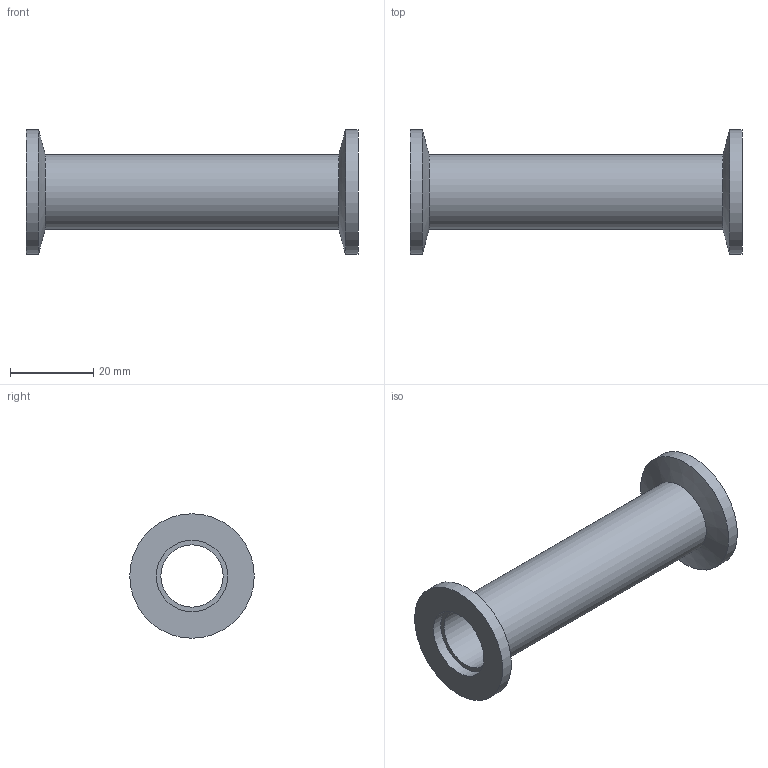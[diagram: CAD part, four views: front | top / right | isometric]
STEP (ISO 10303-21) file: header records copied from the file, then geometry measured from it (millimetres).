
FILE_DESCRIPTION( ( 'Unknown' ), '1' );
FILE_NAME( 'X:/Daten ( aktueller Bestand )/Projekte und Zeichnungen/Solid Edge/STP-Dateien/KF/11724.stp', 'Unknown', ( 'Unknown' ), ( 'Unknown' ), 'PSStep 14.0', 'Unknown', ' ' );
FILE_SCHEMA( ( 'AUTOMOTIVE_DESIGN { 1 0 10303 214 1 1 1 1 }' ) );
Length unit declared in the file: millimetre
Products named in the file (2): Assem1; 1_0
Assembly tree (1 placements, depth 2):
  Assem1
    1_0
Bounding box: 80 x 30 x 30 mm (x, y, z)
Volume: 9323.2 mm3; surface area: 10369.7 mm2
Topology: 1 solids, 1 shells, 12 faces, 20 edges, 12 vertices
Faces by surface type: cylinder 6, plane 4, cone 2
Full cylindrical faces by diameter (mm): 15 x1, 17.2 x2, 18 x1, 30 x2
Entity records: 382 total; most frequent: DIRECTION 52, CARTESIAN_POINT 38, AXIS2_PLACEMENT_3D 26, EDGE_LOOP 24, ORIENTED_EDGE 24, FACE_OUTER_BOUND 18, STYLED_ITEM 12, PRESENTATION_STYLE_ASSIGNMENT 12
